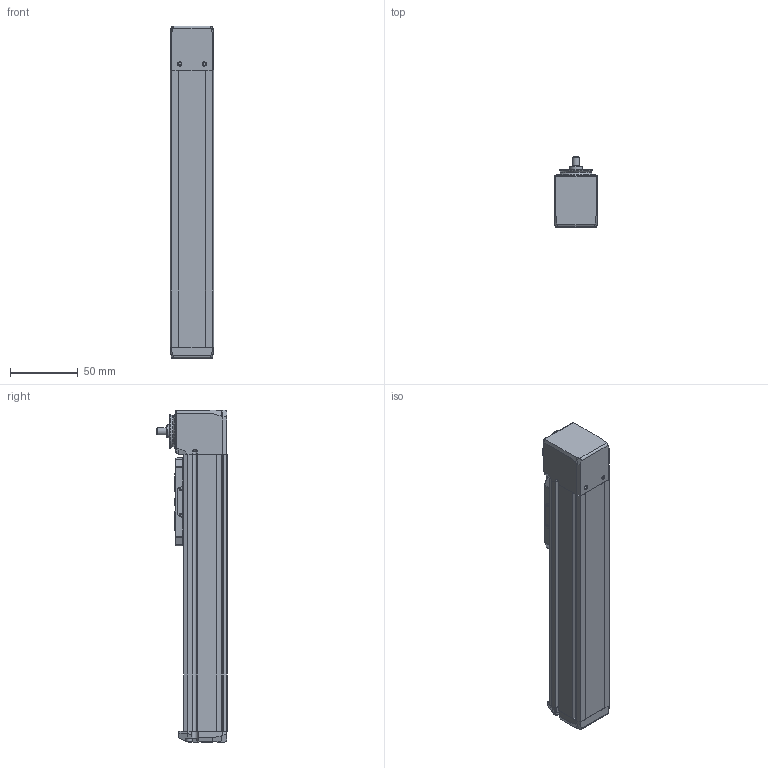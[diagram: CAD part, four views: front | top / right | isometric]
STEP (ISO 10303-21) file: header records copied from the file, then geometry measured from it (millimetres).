
FILE_DESCRIPTION(/* description */ ('STEP AP214'),/* implementation_level */ '2;1');
FILE_NAME(/* name */ 'MGTB 32 100(0)',/* time_stamp */ '2023-04-17T13:29:40+02:00',/* author */ ('License CC BY-ND 4.0'),/* organization */ ('CADENAS'),/* preprocessor_version */ 'ST-DEVELOPER v19.3',/* originating_system */ 'PARTsolutions',/* authorisation */ ' ');
FILE_SCHEMA (('AP203_CONFIGURATION_CONTROLLED_3D_DESIGN_OF_MECHANICAL_PARTS_AND_ASSEMBLIES_MIM_LF { 1 0 10303 203 3 1 4 }','AUTOMOTIVE_DESIGN {1 0 10303 214 3 1 1}'));
Length unit declared in the file: millimetre
Products named in the file (6): MGTB 32 100(0); MGTB 32 100_protection_strip; MGTB 32_carriage; MGTB 32_end_block; MGTB 32 100_profile; MGTB 32_drive_block
Assembly tree (5 placements, depth 2):
  MGTB 32 100(0)
    MGTB 32 100_protection_strip
    MGTB 32_carriage
    MGTB 32_end_block
    MGTB 32 100_profile
    MGTB 32_drive_block
Bounding box: 32 x 51.75 x 244.75 mm (x, y, z)
Volume: 248359.3 mm3; surface area: 64235.8 mm2
Topology: 5 solids, 5 shells, 664 faces, 1755 edges, 1129 vertices
Faces by surface type: plane 316, cylinder 171, cone 90, bspline 60, torus 25, sphere 2
Full cylindrical faces by diameter (mm): 1.155 x1, 1.567 x4, 1.755 x4, 1.8 x2, 2 x2, 2.3 x4, 2.459 x8, 2.46 x4, 2.5 x11, 3 x1, 3.8 x4, 4.5 x4, 5 x3, 7 x1, 7.5 x1, 9.6 x1, 19.5 x1, 25 x2
Entity records: 24513 total; most frequent: CARTESIAN_POINT 4239, DIRECTION 3359, ORIENTED_EDGE 3170, EDGE_CURVE 1585, AXIS2_PLACEMENT_3D 1204, VERTEX_POINT 1116, LINE 951, VECTOR 951
